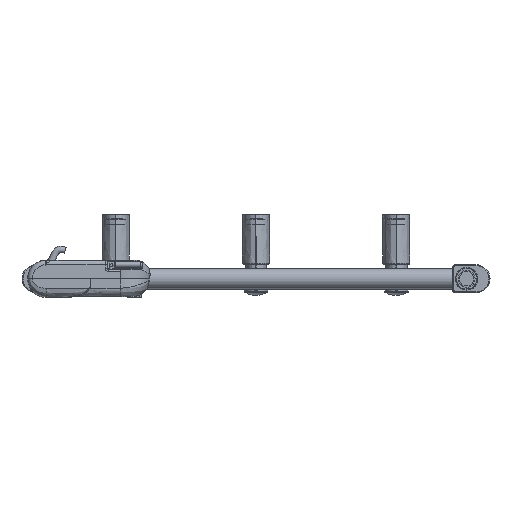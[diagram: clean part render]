
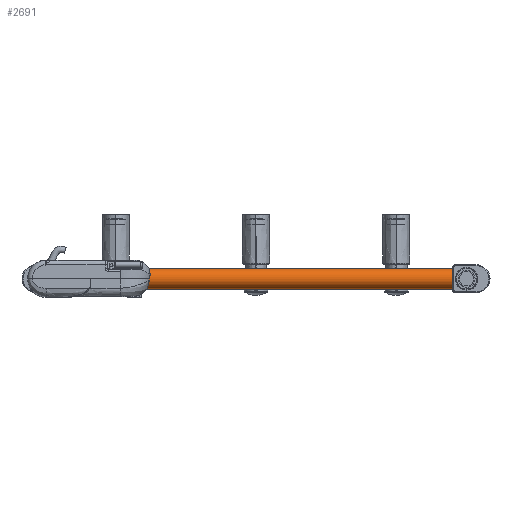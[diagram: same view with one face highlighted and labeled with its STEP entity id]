
A CAD part, front view. The second image highlights one B-rep face of the part: STEP entity #2691.
In plain terms, the highlighted cylindrical face has radius 11 mm (diameter 22 mm), a partial arc.
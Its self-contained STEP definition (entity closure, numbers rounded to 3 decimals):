
#319=CARTESIAN_POINT('',(210.,-594.,0.));
#320=DIRECTION('',(1.,0.,0.));
#321=DIRECTION('',(0.,0.,1.));
#322=AXIS2_PLACEMENT_3D('',#319,#320,#321);
#824=DIRECTION('',(1.,0.,0.));
#825=VECTOR('',#824,420.);
#826=CARTESIAN_POINT('',(-210.,-594.,-11.));
#827=LINE('',#826,#825);
#831=DIRECTION('',(1.,0.,0.));
#832=VECTOR('',#831,420.);
#833=CARTESIAN_POINT('',(-210.,-594.,11.));
#834=LINE('',#833,#832);
#874=CARTESIAN_POINT('',(-210.,-594.,0.));
#875=DIRECTION('',(1.,0.,0.));
#876=DIRECTION('',(0.,0.,1.));
#877=AXIS2_PLACEMENT_3D('',#874,#875,#876);
#1960=CARTESIAN_POINT('',(-210.,-594.,-11.));
#1961=CARTESIAN_POINT('',(210.,-594.,-11.));
#1962=VERTEX_POINT('',#1960);
#1963=VERTEX_POINT('',#1961);
#1964=CARTESIAN_POINT('',(-210.,-594.,11.));
#1965=CARTESIAN_POINT('',(210.,-594.,11.));
#1966=VERTEX_POINT('',#1964);
#1967=VERTEX_POINT('',#1965);
#2679=CARTESIAN_POINT('',(-300.,-594.,0.));
#2680=DIRECTION('',(1.,0.,0.));
#2681=DIRECTION('',(0.,0.,-1.));
#2682=AXIS2_PLACEMENT_3D('',#2679,#2680,#2681);
#2683=CYLINDRICAL_SURFACE('',#2682,11.);
#2684=ORIENTED_EDGE('',*,*,#2669,.F.);
#2686=ORIENTED_EDGE('',*,*,#2685,.F.);
#2687=ORIENTED_EDGE('',*,*,#2672,.T.);
#2688=ORIENTED_EDGE('',*,*,#2352,.T.);
#2689=EDGE_LOOP('',(#2684,#2686,#2687,#2688));
#2690=FACE_OUTER_BOUND('',#2689,.F.);
#323=CIRCLE('',#322,11.);
#878=CIRCLE('',#877,11.);
#2352=EDGE_CURVE('',#1967,#1963,#323,.T.);
#2669=EDGE_CURVE('',#1962,#1963,#827,.T.);
#2672=EDGE_CURVE('',#1966,#1967,#834,.T.);
#2685=EDGE_CURVE('',#1966,#1962,#878,.T.);
#2691=ADVANCED_FACE('',(#2690),#2683,.T.);
